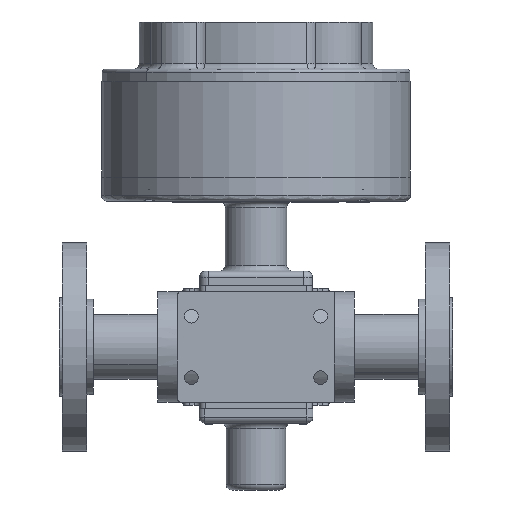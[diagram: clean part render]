
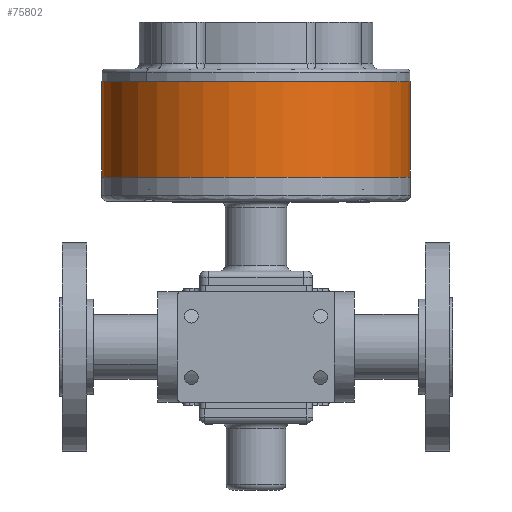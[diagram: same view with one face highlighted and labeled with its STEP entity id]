
A CAD part, front view. The second image highlights one B-rep face of the part: STEP entity #75802.
In plain terms, the highlighted cylindrical face has radius 79.756 mm (diameter 159.512 mm), a partial arc.
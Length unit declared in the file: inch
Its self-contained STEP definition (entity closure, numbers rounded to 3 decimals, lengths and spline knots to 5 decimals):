
#1787 = EDGE_CURVE ( 'NONE', #13698, #28779, #21138, .T. ) ;
#2594 = CIRCLE ( 'NONE', #77578, 3.14 ) ;
#5618 = CYLINDRICAL_SURFACE ( 'NONE', #20247, 3.14 ) ;
#12879 = LINE ( 'NONE', #38457, #71530 ) ;
#13698 = VERTEX_POINT ( 'NONE', #21786 ) ;
#20247 = AXIS2_PLACEMENT_3D ( 'NONE', #50059, #24922, #82287 ) ;
#21138 = LINE ( 'NONE', #72290, #75513 ) ;
#21325 = CARTESIAN_POINT ( 'NONE',  ( -9.4614, -1.79567, 2.84769 ) ) ;
#21786 = CARTESIAN_POINT ( 'NONE',  ( -3.1814, -1.79567, 2.84769 ) ) ;
#24922 = DIRECTION ( 'NONE',  ( 0., 0., 1. ) ) ;
#25614 = DIRECTION ( 'NONE',  ( -1., 0., 0. ) ) ;
#28779 = VERTEX_POINT ( 'NONE', #68728 ) ;
#31269 = EDGE_CURVE ( 'NONE', #13698, #43036, #63489, .T. ) ;
#33821 = DIRECTION ( 'NONE',  ( -1., 0., 0. ) ) ;
#34917 = ORIENTED_EDGE ( 'NONE', *, *, #48558, .T. ) ;
#35426 = AXIS2_PLACEMENT_3D ( 'NONE', #77988, #50795, #25614 ) ;
#36192 = EDGE_LOOP ( 'NONE', ( #43155, #68614, #37200, #34917 ) ) ;
#37200 = ORIENTED_EDGE ( 'NONE', *, *, #1787, .T. ) ;
#38457 = CARTESIAN_POINT ( 'NONE',  ( -9.4614, -1.79567, 2.84769 ) ) ;
#39284 = CARTESIAN_POINT ( 'NONE',  ( -6.3214, -1.79567, 4.78469 ) ) ;
#39693 = DIRECTION ( 'NONE',  ( 0., 0., 1. ) ) ;
#40125 = DIRECTION ( 'NONE',  ( 0., 0., -1. ) ) ;
#40420 = DIRECTION ( 'NONE',  ( 0., 0., 1. ) ) ;
#43036 = VERTEX_POINT ( 'NONE', #21325 ) ;
#43155 = ORIENTED_EDGE ( 'NONE', *, *, #82016, .F. ) ;
#48430 = CARTESIAN_POINT ( 'NONE',  ( -9.4614, -1.79567, 4.78469 ) ) ;
#48558 = EDGE_CURVE ( 'NONE', #28779, #73080, #2594, .T. ) ;
#50059 = CARTESIAN_POINT ( 'NONE',  ( -6.3214, -1.79567, 2.84769 ) ) ;
#50795 = DIRECTION ( 'NONE',  ( 0., 0., -1. ) ) ;
#63489 = CIRCLE ( 'NONE', #35426, 3.14 ) ;
#68614 = ORIENTED_EDGE ( 'NONE', *, *, #31269, .F. ) ;
#68728 = CARTESIAN_POINT ( 'NONE',  ( -3.1814, -1.79567, 4.78469 ) ) ;
#71530 = VECTOR ( 'NONE', #39693, 39.37008 ) ;
#72290 = CARTESIAN_POINT ( 'NONE',  ( -3.1814, -1.79567, 2.84769 ) ) ;
#73080 = VERTEX_POINT ( 'NONE', #48430 ) ;
#75513 = VECTOR ( 'NONE', #40420, 39.37008 ) ;
#75802 = ADVANCED_FACE ( 'NONE', ( #81930 ), #5618, .T. ) ;
#77578 = AXIS2_PLACEMENT_3D ( 'NONE', #39284, #40125, #33821 ) ;
#77988 = CARTESIAN_POINT ( 'NONE',  ( -6.3214, -1.79567, 2.84769 ) ) ;
#81930 = FACE_OUTER_BOUND ( 'NONE', #36192, .T. ) ;
#82016 = EDGE_CURVE ( 'NONE', #43036, #73080, #12879, .T. ) ;
#82287 = DIRECTION ( 'NONE',  ( 1., 0., 0. ) ) ;
